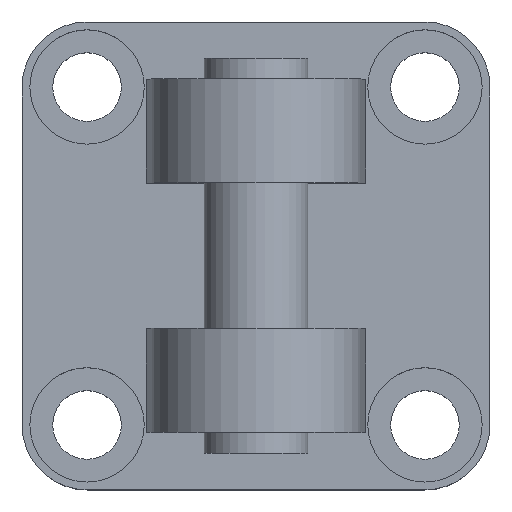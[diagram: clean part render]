
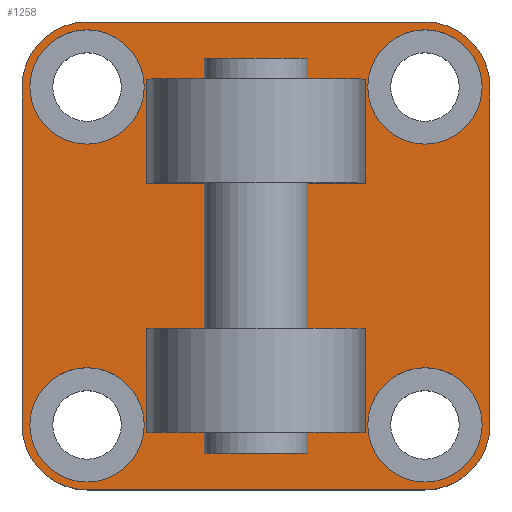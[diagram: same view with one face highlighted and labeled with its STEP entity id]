
A CAD part, top view. The second image highlights one B-rep face of the part: STEP entity #1258.
In plain terms, the highlighted planar face has unit normal (0, 0, 1).
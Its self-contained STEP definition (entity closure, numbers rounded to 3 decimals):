
#151=CARTESIAN_POINT('',(22.5,-16.25,10.0));
#152=VERTEX_POINT('',#151);
#153=CARTESIAN_POINT('',(16.25,-22.5,10.0));
#154=VERTEX_POINT('',#153);
#155=CARTESIAN_POINT('',(16.25,-16.25,10.0));
#156=DIRECTION('',(0.0,0.0,-1.));
#157=DIRECTION('',(0.707,-0.707,0.0));
#158=AXIS2_PLACEMENT_3D('',#155,#156,#157);
#159=CIRCLE('',#158,6.25);
#160=EDGE_CURVE('',#152,#154,#159,.T.);
#202=CARTESIAN_POINT('',(22.5,16.25,10.0));
#203=VERTEX_POINT('',#202);
#210=CARTESIAN_POINT('',(22.5,16.25,10.0));
#211=DIRECTION('',(0.0,-1.0,0.0));
#212=VECTOR('',#211,32.5);
#213=LINE('',#210,#212);
#214=EDGE_CURVE('',#203,#152,#213,.T.);
#338=CARTESIAN_POINT('',(-22.5,16.25,10.0));
#339=VERTEX_POINT('',#338);
#340=CARTESIAN_POINT('',(-16.25,22.5,10.0));
#341=VERTEX_POINT('',#340);
#342=CARTESIAN_POINT('',(-16.25,16.25,10.0));
#343=DIRECTION('',(0.0,0.0,-1.));
#344=DIRECTION('',(-0.707,0.707,0.0));
#345=AXIS2_PLACEMENT_3D('',#342,#343,#344);
#346=CIRCLE('',#345,6.25);
#347=EDGE_CURVE('',#339,#341,#346,.T.);
#371=CARTESIAN_POINT('',(16.25,22.5,10.0));
#372=VERTEX_POINT('',#371);
#373=CARTESIAN_POINT('',(-16.25,22.5,10.0));
#374=DIRECTION('',(1.0,0.0,0.0));
#375=VECTOR('',#374,32.5);
#376=LINE('',#373,#375);
#377=EDGE_CURVE('',#341,#372,#376,.T.);
#394=CARTESIAN_POINT('',(16.25,16.25,10.0));
#395=DIRECTION('',(0.0,0.0,-1.));
#396=DIRECTION('',(0.707,0.707,0.0));
#397=AXIS2_PLACEMENT_3D('',#394,#395,#396);
#398=CIRCLE('',#397,6.25);
#399=EDGE_CURVE('',#372,#203,#398,.T.);
#412=CARTESIAN_POINT('',(-16.25,-22.5,10.0));
#413=VERTEX_POINT('',#412);
#414=CARTESIAN_POINT('',(-22.5,-16.25,10.0));
#415=VERTEX_POINT('',#414);
#416=CARTESIAN_POINT('',(-16.25,-16.25,10.0));
#417=DIRECTION('',(0.0,0.0,-1.));
#418=DIRECTION('',(-0.707,-0.707,0.0));
#419=AXIS2_PLACEMENT_3D('',#416,#417,#418);
#420=CIRCLE('',#419,6.25);
#421=EDGE_CURVE('',#413,#415,#420,.T.);
#447=CARTESIAN_POINT('',(-22.5,-16.25,10.0));
#448=DIRECTION('',(0.0,1.0,0.0));
#449=VECTOR('',#448,32.5);
#450=LINE('',#447,#449);
#451=EDGE_CURVE('',#415,#339,#450,.T.);
#510=CARTESIAN_POINT('',(21.75,16.25,10.0));
#511=VERTEX_POINT('',#510);
#512=CARTESIAN_POINT('',(16.25,16.25,10.0));
#513=DIRECTION('',(0.0,0.0,-1.0));
#514=DIRECTION('',(1.0,0.0,0.0));
#515=AXIS2_PLACEMENT_3D('',#512,#513,#514);
#516=CIRCLE('',#515,5.5);
#517=EDGE_CURVE('',#511,#511,#516,.T.);
#612=CARTESIAN_POINT('',(-10.75,-16.25,10.0));
#613=VERTEX_POINT('',#612);
#614=CARTESIAN_POINT('',(-16.25,-16.25,10.0));
#615=DIRECTION('',(0.0,0.0,-1.0));
#616=DIRECTION('',(1.0,0.0,0.0));
#617=AXIS2_PLACEMENT_3D('',#614,#615,#616);
#618=CIRCLE('',#617,5.5);
#619=EDGE_CURVE('',#613,#613,#618,.T.);
#714=CARTESIAN_POINT('',(-10.75,16.25,10.0));
#715=VERTEX_POINT('',#714);
#716=CARTESIAN_POINT('',(-16.25,16.25,10.0));
#717=DIRECTION('',(0.0,0.0,-1.0));
#718=DIRECTION('',(1.0,0.0,0.0));
#719=AXIS2_PLACEMENT_3D('',#716,#717,#718);
#720=CIRCLE('',#719,5.5);
#721=EDGE_CURVE('',#715,#715,#720,.T.);
#816=CARTESIAN_POINT('',(21.75,-16.25,10.0));
#817=VERTEX_POINT('',#816);
#818=CARTESIAN_POINT('',(16.25,-16.25,10.0));
#819=DIRECTION('',(0.0,0.0,-1.0));
#820=DIRECTION('',(1.0,0.0,0.0));
#821=AXIS2_PLACEMENT_3D('',#818,#819,#820);
#822=CIRCLE('',#821,5.5);
#823=EDGE_CURVE('',#817,#817,#822,.T.);
#919=CARTESIAN_POINT('',(10.533,-7.,10.));
#920=VERTEX_POINT('',#919);
#929=CARTESIAN_POINT('',(-10.533,-7.,10.));
#930=VERTEX_POINT('',#929);
#931=CARTESIAN_POINT('',(10.533,-7.,10.));
#932=DIRECTION('',(-1.0,0.0,0.0));
#933=VECTOR('',#932,21.067);
#934=LINE('',#931,#933);
#935=EDGE_CURVE('',#920,#930,#934,.T.);
#965=CARTESIAN_POINT('',(10.533,7.,10.));
#966=VERTEX_POINT('',#965);
#982=CARTESIAN_POINT('',(-10.533,7.,10.));
#983=VERTEX_POINT('',#982);
#990=CARTESIAN_POINT('',(10.533,7.,10.));
#991=DIRECTION('',(-1.0,0.0,0.0));
#992=VECTOR('',#991,21.067);
#993=LINE('',#990,#992);
#994=EDGE_CURVE('',#966,#983,#993,.T.);
#1016=CARTESIAN_POINT('',(10.533,-17.0,10.0));
#1017=VERTEX_POINT('',#1016);
#1024=CARTESIAN_POINT('',(10.533,-7.,10.));
#1025=DIRECTION('',(0.0,-1.0,0.0));
#1026=VECTOR('',#1025,10.);
#1027=LINE('',#1024,#1026);
#1028=EDGE_CURVE('',#920,#1017,#1027,.T.);
#1064=CARTESIAN_POINT('',(-10.533,-17.0,10.0));
#1065=VERTEX_POINT('',#1064);
#1066=CARTESIAN_POINT('',(-10.533,-17.0,10.0));
#1067=DIRECTION('',(0.0,1.0,0.0));
#1068=VECTOR('',#1067,10.);
#1069=LINE('',#1066,#1068);
#1070=EDGE_CURVE('',#1065,#930,#1069,.T.);
#1089=CARTESIAN_POINT('',(10.533,-17.0,10.0));
#1090=DIRECTION('',(-1.0,0.0,0.0));
#1091=VECTOR('',#1090,21.067);
#1092=LINE('',#1089,#1091);
#1093=EDGE_CURVE('',#1017,#1065,#1092,.T.);
#1108=CARTESIAN_POINT('',(10.533,17.0,10.0));
#1109=VERTEX_POINT('',#1108);
#1110=CARTESIAN_POINT('',(10.533,17.0,10.0));
#1111=DIRECTION('',(0.0,-1.0,0.0));
#1112=VECTOR('',#1111,10.);
#1113=LINE('',#1110,#1112);
#1114=EDGE_CURVE('',#1109,#966,#1113,.T.);
#1165=CARTESIAN_POINT('',(-10.533,17.0,10.0));
#1166=VERTEX_POINT('',#1165);
#1173=CARTESIAN_POINT('',(-10.533,7.,10.));
#1174=DIRECTION('',(0.0,1.0,0.0));
#1175=VECTOR('',#1174,10.);
#1176=LINE('',#1173,#1175);
#1177=EDGE_CURVE('',#983,#1166,#1176,.T.);
#1187=CARTESIAN_POINT('',(-10.533,17.0,10.0));
#1188=DIRECTION('',(1.0,0.0,0.0));
#1189=VECTOR('',#1188,21.067);
#1190=LINE('',#1187,#1189);
#1191=EDGE_CURVE('',#1166,#1109,#1190,.T.);
#1208=CARTESIAN_POINT('',(16.25,-22.5,10.0));
#1209=DIRECTION('',(-1.0,0.0,0.0));
#1210=VECTOR('',#1209,32.5);
#1211=LINE('',#1208,#1210);
#1212=EDGE_CURVE('',#154,#413,#1211,.T.);
#1219=CARTESIAN_POINT('',(0.0,0.,10.0));
#1220=DIRECTION('',(0.0,0.0,1.0));
#1221=DIRECTION('',(1.0,0.0,0.0));
#1222=AXIS2_PLACEMENT_3D('',#1219,#1220,#1221);
#1223=PLANE('',#1222);
#1224=ORIENTED_EDGE('',*,*,#160,.F.);
#1225=ORIENTED_EDGE('',*,*,#214,.F.);
#1226=ORIENTED_EDGE('',*,*,#399,.F.);
#1227=ORIENTED_EDGE('',*,*,#377,.F.);
#1228=ORIENTED_EDGE('',*,*,#347,.F.);
#1229=ORIENTED_EDGE('',*,*,#451,.F.);
#1230=ORIENTED_EDGE('',*,*,#421,.F.);
#1231=ORIENTED_EDGE('',*,*,#1212,.F.);
#1232=EDGE_LOOP('',(#1224,#1225,#1226,#1227,#1228,#1229,#1230,#1231));
#1233=FACE_OUTER_BOUND('',#1232,.T.);
#1234=ORIENTED_EDGE('',*,*,#517,.T.);
#1235=EDGE_LOOP('',(#1234));
#1236=FACE_BOUND('',#1235,.T.);
#1237=ORIENTED_EDGE('',*,*,#619,.T.);
#1238=EDGE_LOOP('',(#1237));
#1239=FACE_BOUND('',#1238,.T.);
#1240=ORIENTED_EDGE('',*,*,#721,.T.);
#1241=EDGE_LOOP('',(#1240));
#1242=FACE_BOUND('',#1241,.T.);
#1243=ORIENTED_EDGE('',*,*,#823,.T.);
#1244=EDGE_LOOP('',(#1243));
#1245=FACE_BOUND('',#1244,.T.);
#1246=ORIENTED_EDGE('',*,*,#1028,.T.);
#1247=ORIENTED_EDGE('',*,*,#1093,.T.);
#1248=ORIENTED_EDGE('',*,*,#1070,.T.);
#1249=ORIENTED_EDGE('',*,*,#935,.F.);
#1250=EDGE_LOOP('',(#1246,#1247,#1248,#1249));
#1251=FACE_BOUND('',#1250,.T.);
#1252=ORIENTED_EDGE('',*,*,#994,.T.);
#1253=ORIENTED_EDGE('',*,*,#1177,.T.);
#1254=ORIENTED_EDGE('',*,*,#1191,.T.);
#1255=ORIENTED_EDGE('',*,*,#1114,.T.);
#1256=EDGE_LOOP('',(#1252,#1253,#1254,#1255));
#1257=FACE_BOUND('',#1256,.T.);
#1258=ADVANCED_FACE('',(#1233,#1236,#1239,#1242,#1245,#1251,#1257),#1223,.T.);
